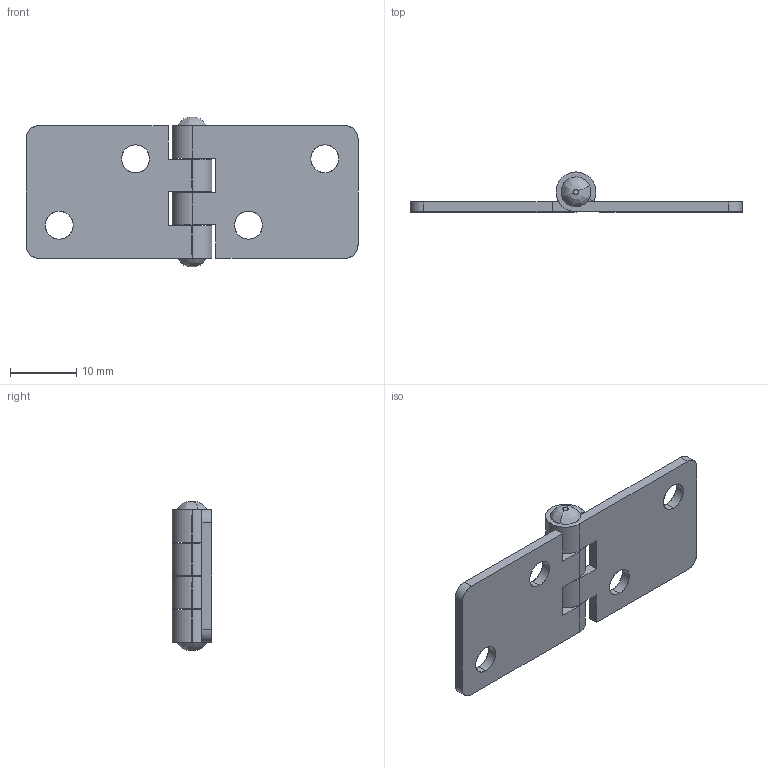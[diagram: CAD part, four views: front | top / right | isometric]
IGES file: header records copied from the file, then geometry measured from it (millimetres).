
Start section: SolidWorks IGES file using analytic representation for surfaces
Global section: file name: Z:\Mes documents\ATAO iges\Gamme CC\CC 404\CC 404.IGS; native system: SolidWorks 2008; preprocessor: SolidWorks 2008; author: cbrechard; date: 110628.161515; units: millimetre
Bounding box: 50 x 6 x 22.5 mm (x, y, z)
Surface area: 2944.1 mm2 (no closed solid volume)
Topology: 0 solids, 0 shells, 70 faces, 1184 edges, 1184 vertices
Faces by surface type: revolution 38, bspline 32
